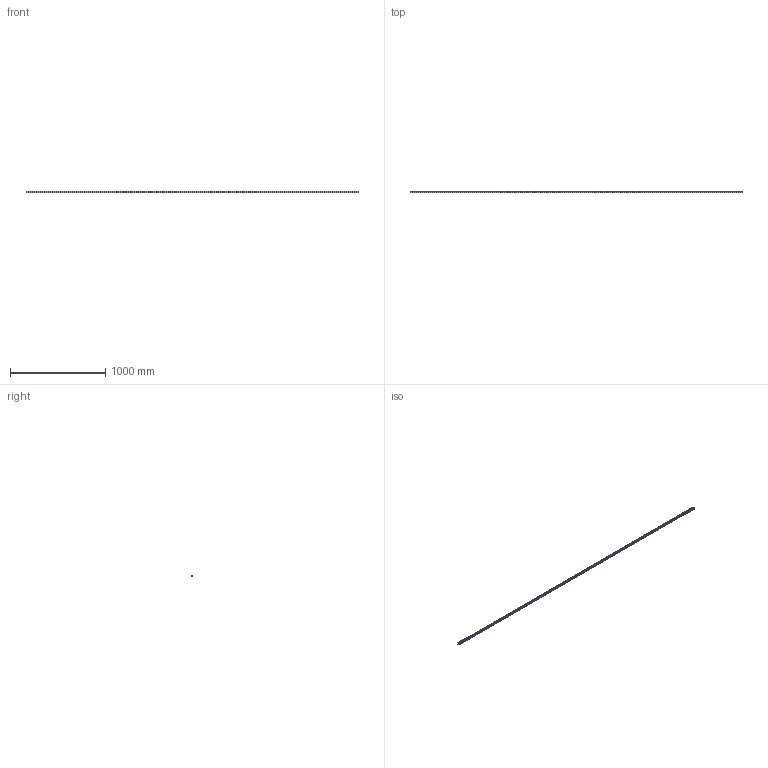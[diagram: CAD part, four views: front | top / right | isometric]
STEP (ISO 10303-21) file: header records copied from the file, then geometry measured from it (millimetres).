
FILE_DESCRIPTION (( 'STEP AP203' ), '1' );
FILE_NAME ('L1018.20R-3480.step', '2023-08-06T09:17:49', ( '' ), ( '' ), 'SwSTEP 2.0', 'SolidWorks 2019', '' );
FILE_SCHEMA (( 'CONFIG_CONTROL_DESIGN' ));
Length unit declared in the file: millimetre
Products named in the file (1): L1018.20R-3480
Bounding box: 3480 x 19.3 x 20 mm (x, y, z)
Volume: 1103606.4 mm3; surface area: 294335 mm2
Topology: 1 solids, 1 shells, 551 faces, 1241 edges, 692 vertices
Faces by surface type: cylinder 235, cone 232, plane 84
Entity records: 14570 total; most frequent: DIRECTION 2815, CARTESIAN_POINT 2369, ORIENTED_EDGE 2250, AXIS2_PLACEMENT_3D 1138, EDGE_CURVE 1125, VERTEX_POINT 692, EDGE_LOOP 667, CIRCLE 586
